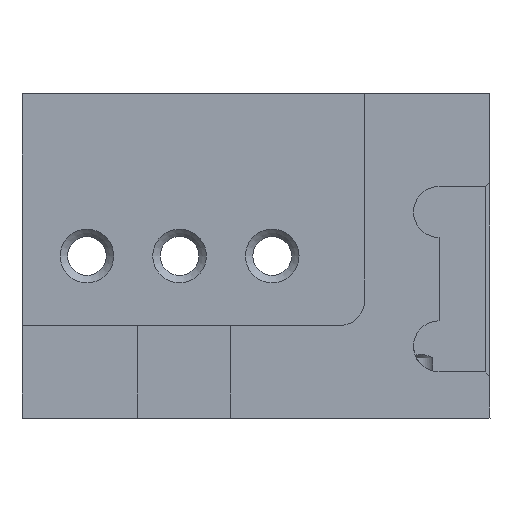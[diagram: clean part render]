
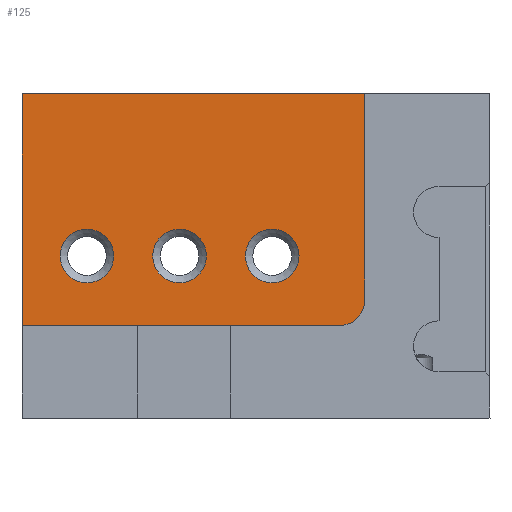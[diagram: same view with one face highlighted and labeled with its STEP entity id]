
A CAD part, front view. The second image highlights one B-rep face of the part: STEP entity #125.
In plain terms, the highlighted planar face has unit normal (0, -1, 0).
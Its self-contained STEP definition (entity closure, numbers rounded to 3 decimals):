
#125=ADVANCED_FACE('',(#540,#542,#544,#546),#548,.T.);
#540=FACE_BOUND('',#541,.T.);
#541=EDGE_LOOP('',(#900,#901,#902,#903,#904));
#542=FACE_BOUND('',#543,.T.);
#543=EDGE_LOOP('',(#905));
#544=FACE_BOUND('',#545,.T.);
#545=EDGE_LOOP('',(#906));
#546=FACE_BOUND('',#547,.T.);
#547=EDGE_LOOP('',(#907));
#548=PLANE('',#549);
#549=AXIS2_PLACEMENT_3D('',#550,#551,#552);
#550=CARTESIAN_POINT('',(0.,14.6,0.));
#551=DIRECTION('',(0.,-1.,0.));
#552=DIRECTION('',(-1.,0.,0.));
#900=ORIENTED_EDGE('',*,*,#1079,.F.);
#901=ORIENTED_EDGE('',*,*,#1062,.T.);
#902=ORIENTED_EDGE('',*,*,#1059,.T.);
#903=ORIENTED_EDGE('',*,*,#1056,.T.);
#904=ORIENTED_EDGE('',*,*,#1077,.F.);
#905=ORIENTED_EDGE('',*,*,#1083,.F.);
#906=ORIENTED_EDGE('',*,*,#1084,.F.);
#907=ORIENTED_EDGE('',*,*,#1085,.F.);
#1056=EDGE_CURVE('',#1148,#1152,#1154,.T.);
#1059=EDGE_CURVE('',#1156,#1148,#1159,.T.);
#1062=EDGE_CURVE('',#1164,#1156,#1165,.T.);
#1077=EDGE_CURVE('',#1191,#1152,#1193,.T.);
#1079=EDGE_CURVE('',#1164,#1191,#1196,.T.);
#1083=EDGE_CURVE('',#1202,#1202,#1203,.F.);
#1084=EDGE_CURVE('',#1204,#1204,#1205,.F.);
#1085=EDGE_CURVE('',#1206,#1206,#1207,.F.);
#1148=VERTEX_POINT('',#1313);
#1152=VERTEX_POINT('',#1321);
#1154=LINE('',#1325,#1326);
#1156=VERTEX_POINT('',#1329);
#1159=CIRCLE('',#1337,5.5);
#1164=VERTEX_POINT('',#1349);
#1165=LINE('',#1350,#1351);
#1191=VERTEX_POINT('',#1410);
#1193=LINE('',#1414,#1415);
#1196=LINE('',#1422,#1423);
#1202=VERTEX_POINT('',#1436);
#1203=CIRCLE('',#1437,5.788);
#1204=VERTEX_POINT('',#1441);
#1205=CIRCLE('',#1442,5.788);
#1206=VERTEX_POINT('',#1446);
#1207=CIRCLE('',#1447,5.788);
#1313=CARTESIAN_POINT('',(-27.,14.6,25.5));
#1321=CARTESIAN_POINT('',(-27.,14.6,70.));
#1325=CARTESIAN_POINT('',(-27.,14.6,25.5));
#1326=VECTOR('',#1327,1.);
#1327=DIRECTION('',(0.,0.,1.));
#1329=CARTESIAN_POINT('',(-32.5,14.6,20.));
#1337=AXIS2_PLACEMENT_3D('',#1338,#1339,#1340);
#1338=CARTESIAN_POINT('',(-32.5,14.6,25.5));
#1339=DIRECTION('',(0.,-1.,0.));
#1340=DIRECTION('',(0.,0.,-1.));
#1349=CARTESIAN_POINT('',(-101.,14.6,20.));
#1350=CARTESIAN_POINT('',(-101.,14.6,20.));
#1351=VECTOR('',#1352,1.);
#1352=DIRECTION('',(1.,0.,0.));
#1410=CARTESIAN_POINT('',(-101.,14.6,70.));
#1414=CARTESIAN_POINT('',(-101.,14.6,70.));
#1415=VECTOR('',#1416,1.);
#1416=DIRECTION('',(1.,0.,0.));
#1422=CARTESIAN_POINT('',(-101.,14.6,20.));
#1423=VECTOR('',#1424,1.);
#1424=DIRECTION('',(0.,0.,1.));
#1436=CARTESIAN_POINT('',(-92.788,14.6,35.));
#1437=AXIS2_PLACEMENT_3D('',#1438,#1439,#1440);
#1438=CARTESIAN_POINT('',(-87.,14.6,35.));
#1439=DIRECTION('',(0.,1.,0.));
#1440=DIRECTION('',(-1.,0.,0.));
#1441=CARTESIAN_POINT('',(-52.788,14.6,35.));
#1442=AXIS2_PLACEMENT_3D('',#1443,#1444,#1445);
#1443=CARTESIAN_POINT('',(-47.,14.6,35.));
#1444=DIRECTION('',(0.,1.,0.));
#1445=DIRECTION('',(-1.,0.,0.));
#1446=CARTESIAN_POINT('',(-72.788,14.6,35.));
#1447=AXIS2_PLACEMENT_3D('',#1448,#1449,#1450);
#1448=CARTESIAN_POINT('',(-67.,14.6,35.));
#1449=DIRECTION('',(0.,1.,0.));
#1450=DIRECTION('',(-1.,0.,0.));
